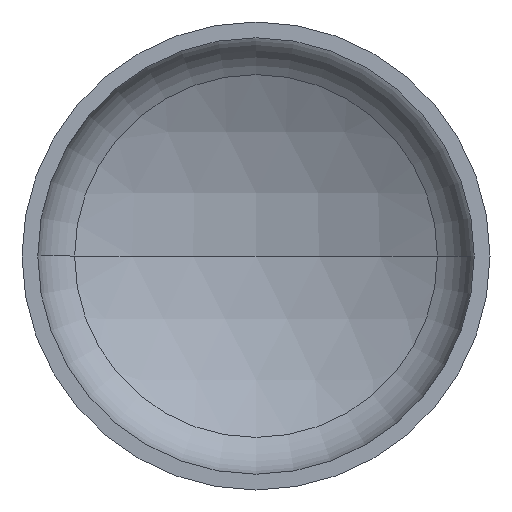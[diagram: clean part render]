
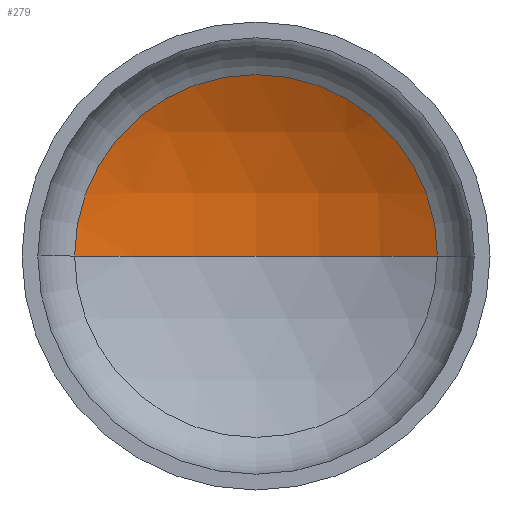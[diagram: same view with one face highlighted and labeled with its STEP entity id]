
A CAD part, front view. The second image highlights one B-rep face of the part: STEP entity #279.
In plain terms, the highlighted spherical face has radius 1520 mm.
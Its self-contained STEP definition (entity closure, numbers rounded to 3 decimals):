
#2 = VERTEX_POINT ( 'NONE', #236 ) ;
#33 = ORIENTED_EDGE ( 'NONE', *, *, #258, .T. ) ;
#40 = ORIENTED_EDGE ( 'NONE', *, *, #259, .T. ) ;
#41 = VERTEX_POINT ( 'NONE', #245 ) ;
#71 = ORIENTED_EDGE ( 'NONE', *, *, #264, .F. ) ;
#72 = FACE_OUTER_BOUND ( 'NONE', #140, .T. ) ;
#85 = VERTEX_POINT ( 'NONE', #116 ) ;
#94 = AXIS2_PLACEMENT_3D ( 'NONE', #252, #125, #278 ) ;
#116 = CARTESIAN_POINT ( 'NONE',  ( 736.52, 373.681, 0. ) ) ;
#122 = CARTESIAN_POINT ( 'NONE',  ( 0., -955.957, 0. ) ) ;
#125 = DIRECTION ( 'NONE',  ( 0., 0., -1. ) ) ;
#140 = EDGE_LOOP ( 'NONE', ( #71, #40, #33 ) ) ;
#145 = AXIS2_PLACEMENT_3D ( 'NONE', #357, #222, #380 ) ;
#150 = AXIS2_PLACEMENT_3D ( 'NONE', #122, #318, #164 ) ;
#161 = AXIS2_PLACEMENT_3D ( 'NONE', #250, #403, #275 ) ;
#164 = DIRECTION ( 'NONE',  ( -1., 0., 0. ) ) ;
#205 = CIRCLE ( 'NONE', #150, 1520. ) ;
#222 = DIRECTION ( 'NONE',  ( 0., 0., 1. ) ) ;
#236 = CARTESIAN_POINT ( 'NONE',  ( -736.52, 373.681, 0. ) ) ;
#245 = CARTESIAN_POINT ( 'NONE',  ( 0., 564.043, 0. ) ) ;
#250 = CARTESIAN_POINT ( 'NONE',  ( 0., 373.681, 0. ) ) ;
#252 = CARTESIAN_POINT ( 'NONE',  ( 0., -955.957, 0. ) ) ;
#258 = EDGE_CURVE ( 'NONE', #85, #2, #378, .T. ) ;
#259 = EDGE_CURVE ( 'NONE', #41, #85, #205, .T. ) ;
#261 = SPHERICAL_SURFACE ( 'NONE', #94, 1520. ) ;
#264 = EDGE_CURVE ( 'NONE', #41, #2, #267, .T. ) ;
#267 = CIRCLE ( 'NONE', #145, 1520. ) ;
#275 = DIRECTION ( 'NONE',  ( 1., 0., 0. ) ) ;
#278 = DIRECTION ( 'NONE',  ( -1., 0., 0. ) ) ;
#279 = ADVANCED_FACE ( 'NONE', ( #72 ), #261, .F. ) ;
#318 = DIRECTION ( 'NONE',  ( 0., 0., -1. ) ) ;
#357 = CARTESIAN_POINT ( 'NONE',  ( 0., -955.957, 0. ) ) ;
#378 = CIRCLE ( 'NONE', #161, 736.52 ) ;
#380 = DIRECTION ( 'NONE',  ( 1., 0., 0. ) ) ;
#403 = DIRECTION ( 'NONE',  ( 0., -1., 0. ) ) ;
